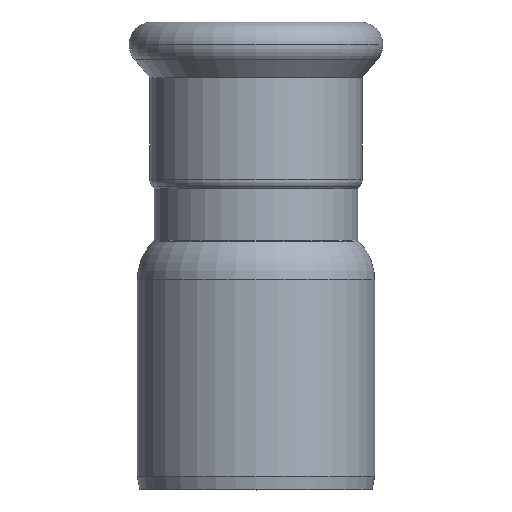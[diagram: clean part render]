
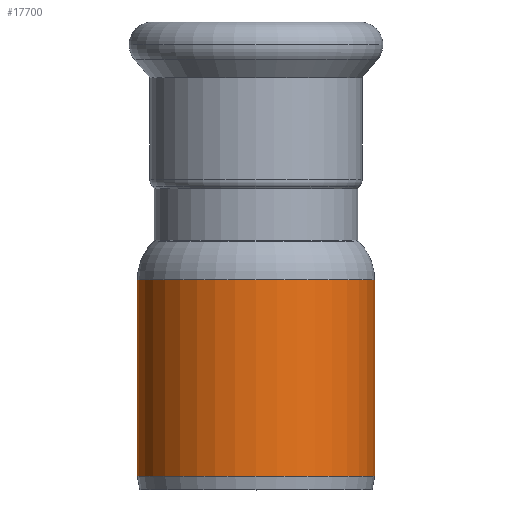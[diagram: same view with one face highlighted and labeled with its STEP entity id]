
A CAD part, top view. The second image highlights one B-rep face of the part: STEP entity #17700.
In plain terms, the highlighted cylindrical face has radius 17.5 mm (diameter 35 mm), a partial arc.
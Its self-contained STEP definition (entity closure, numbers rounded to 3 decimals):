
#1630=CARTESIAN_POINT('',(-185.476,24.607,0.));
#1640=VERTEX_POINT('',#1630);
#1670=CARTESIAN_POINT('',(-202.976,24.607,0.));
#1680=DIRECTION('',(0.,-1.,0.));
#1690=DIRECTION('',(-1.,0.,0.));
#1700=AXIS2_PLACEMENT_3D('',#1670,#1680,#1690);
#1710=CIRCLE('',#1700,17.5);
#1720=CARTESIAN_POINT('',(-220.476,24.607,0.));
#1730=VERTEX_POINT('',#1720);
#1740=EDGE_CURVE('',#1640,#1730,#1710,.T.);
#1870=CARTESIAN_POINT('',(-202.976,33.421,0.));
#1880=DIRECTION('',(0.,-1.,0.));
#1890=DIRECTION('',(1.,0.,0.));
#1900=AXIS2_PLACEMENT_3D('',#1870,#1880,#1890);
#1910=CYLINDRICAL_SURFACE('',#1900,17.5);
#1920=CARTESIAN_POINT('',(-185.476,33.421,0.));
#1930=DIRECTION('',(0.,-1.,0.));
#1940=VECTOR('',#1930,1.);
#1950=LINE('',#1920,#1940);
#1960=CARTESIAN_POINT('',(-185.476,-4.379,0.));
#1970=VERTEX_POINT('',#1960);
#1980=EDGE_CURVE('',#1640,#1970,#1950,.T.);
#2020=CARTESIAN_POINT('',(-220.476,33.421,
0.));
#2030=DIRECTION('',(0.,-1.,0.));
#2040=VECTOR('',#2030,1.);
#2050=LINE('',#2020,#2040);
#2060=CARTESIAN_POINT('',(-220.476,-4.379,
0.));
#2070=VERTEX_POINT('',#2060);
#2080=EDGE_CURVE('',#1730,#2070,#2050,.T.);
#2100=CARTESIAN_POINT('',(-202.976,-4.379,0.));
#2110=DIRECTION('',(0.,-1.,0.));
#2120=DIRECTION('',(-1.,0.,0.));
#2130=AXIS2_PLACEMENT_3D('',#2100,#2110,#2120);
#2140=CIRCLE('',#2130,17.5);
#17630=ORIENTED_EDGE('',*,*,#1980,.F.);
#17640=EDGE_CURVE('',#1970,#2070,#2140,.T.);
#17650=ORIENTED_EDGE('',*,*,#17640,.F.);
#17660=ORIENTED_EDGE('',*,*,#2080,.T.);
#17670=ORIENTED_EDGE('',*,*,#1740,.T.);
#17680=EDGE_LOOP('',(#17670,#17660,#17650,#17630));
#17690=FACE_OUTER_BOUND('',#17680,.T.);
#17700=ADVANCED_FACE('',(#17690),#1910,.T.);
